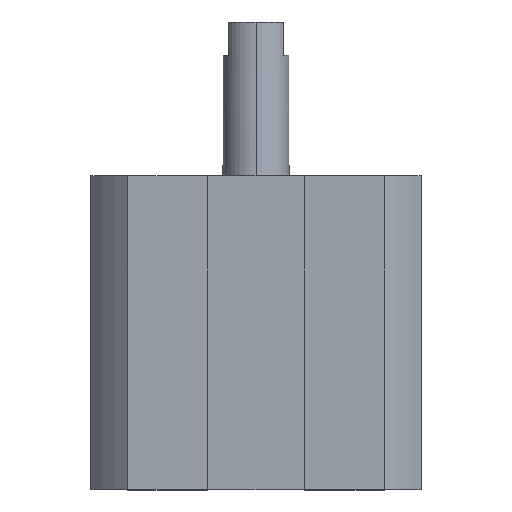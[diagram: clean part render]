
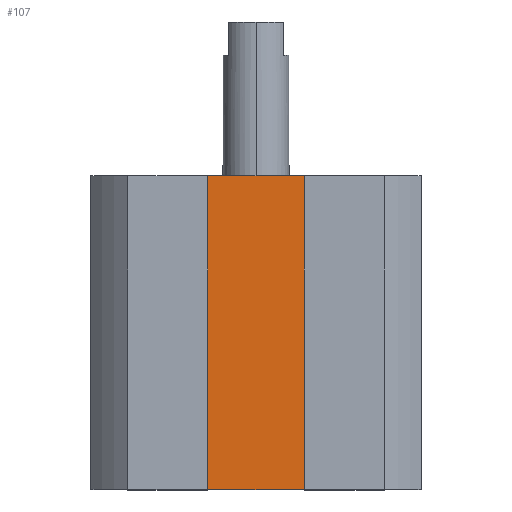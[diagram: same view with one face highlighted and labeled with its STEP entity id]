
A CAD part, top view. The second image highlights one B-rep face of the part: STEP entity #107.
In plain terms, the highlighted planar face has unit normal (0, 0, 1).
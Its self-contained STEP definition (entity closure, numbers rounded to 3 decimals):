
#82 = VERTEX_POINT ( 'NONE', #1527 ) ;
#107 = ADVANCED_FACE ( 'NONE', ( #1373 ), #2058, .T. ) ;
#110 = EDGE_CURVE ( 'NONE', #82, #1565, #527, .T. ) ;
#171 = CARTESIAN_POINT ( 'NONE',  ( 0., -28.5, 10. ) ) ;
#323 = EDGE_CURVE ( 'NONE', #949, #2006, #938, .T. ) ;
#380 = ORIENTED_EDGE ( 'NONE', *, *, #110, .T. ) ;
#439 = ORIENTED_EDGE ( 'NONE', *, *, #1083, .F. ) ;
#440 = LINE ( 'NONE', #2173, #1744 ) ;
#477 = VECTOR ( 'NONE', #1731, 1000. ) ;
#488 = ORIENTED_EDGE ( 'NONE', *, *, #1890, .T. ) ;
#527 = LINE ( 'NONE', #171, #477 ) ;
#636 = DIRECTION ( 'NONE',  ( 0., 1., 0. ) ) ;
#880 = VECTOR ( 'NONE', #2155, 1000. ) ;
#938 = LINE ( 'NONE', #2146, #880 ) ;
#949 = VERTEX_POINT ( 'NONE', #1097 ) ;
#996 = VECTOR ( 'NONE', #1363, 1000. ) ;
#1083 = EDGE_CURVE ( 'NONE', #82, #949, #440, .T. ) ;
#1097 = CARTESIAN_POINT ( 'NONE',  ( -4.4, 0., 10. ) ) ;
#1164 = LINE ( 'NONE', #2225, #996 ) ;
#1220 = CARTESIAN_POINT ( 'NONE',  ( 4.4, 0., 10. ) ) ;
#1363 = DIRECTION ( 'NONE',  ( 0., 1., 0. ) ) ;
#1373 = FACE_OUTER_BOUND ( 'NONE', #1557, .T. ) ;
#1527 = CARTESIAN_POINT ( 'NONE',  ( -4.4, -28.5, 10. ) ) ;
#1554 = DIRECTION ( 'NONE',  ( 0., 0., 1. ) ) ;
#1557 = EDGE_LOOP ( 'NONE', ( #2092, #439, #380, #488 ) ) ;
#1560 = CARTESIAN_POINT ( 'NONE',  ( 4.4, -28.5, 10. ) ) ;
#1565 = VERTEX_POINT ( 'NONE', #1560 ) ;
#1731 = DIRECTION ( 'NONE',  ( 1., 0., 0. ) ) ;
#1744 = VECTOR ( 'NONE', #636, 1000. ) ;
#1890 = EDGE_CURVE ( 'NONE', #1565, #2006, #1164, .T. ) ;
#2006 = VERTEX_POINT ( 'NONE', #1220 ) ;
#2058 = PLANE ( 'NONE',  #2215 ) ;
#2080 = CARTESIAN_POINT ( 'NONE',  ( 0., -28.5, 10. ) ) ;
#2092 = ORIENTED_EDGE ( 'NONE', *, *, #323, .F. ) ;
#2146 = CARTESIAN_POINT ( 'NONE',  ( 0., 0., 10. ) ) ;
#2155 = DIRECTION ( 'NONE',  ( 1., 0., 0. ) ) ;
#2173 = CARTESIAN_POINT ( 'NONE',  ( -4.4, -28.5, 10. ) ) ;
#2215 = AXIS2_PLACEMENT_3D ( 'NONE', #2080, #1554, #2243 ) ;
#2225 = CARTESIAN_POINT ( 'NONE',  ( 4.4, -28.5, 10. ) ) ;
#2243 = DIRECTION ( 'NONE',  ( 1., 0., 0. ) ) ;
